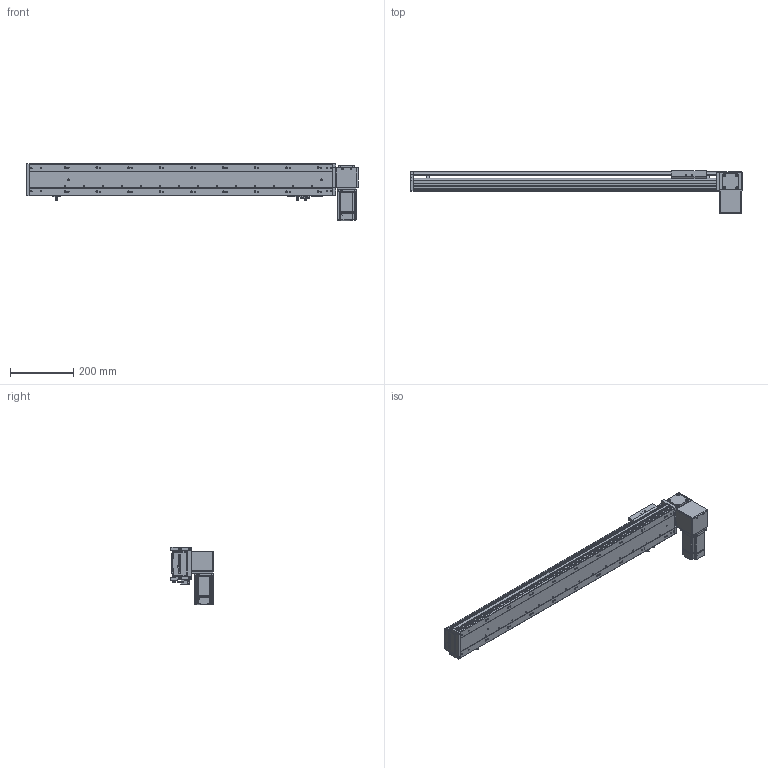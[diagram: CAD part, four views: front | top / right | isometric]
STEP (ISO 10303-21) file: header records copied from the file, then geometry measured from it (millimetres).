
FILE_DESCRIPTION (( 'STEP AP203' ), '1' );
FILE_NAME ('RY100-T-300-DL.SLDASM_750.step', '2024-04-24T01:11:09', ( '盈信电脑' ), ( '东莞市道滘镇水果街19号' ), 'SwSTEP 2.0', 'SolidWorks 2016', '' );
FILE_SCHEMA (( 'CONFIG_CONTROL_DESIGN' ));
Length unit declared in the file: millimetre
Products named in the file (16): 1; RY100俋离覜茼え; RY100-T翋肮祭謫裔啣2; RY100-T翋肮祭謫粣; RY100-T-300-DL.SLDASM_750; RY80-T肮祭謫狟殏俋欶; RY100-T粣創揤踡裔; 覜茼ん672; RY100-T-300-RK倰第菁釱_750; RY100-T左右折电机安装板; RY100-T翋肮祭謫裔啣; 滅袉蝶18-10; RY100-T-300-RK倰第奻裔_750; RY100-T肮祭謫臏賑輸; RY100綴裔啣; RY100-T肮祭謫翋盓傅釱
Assembly tree (18 placements, depth 2):
  RY100-T-300-DL.SLDASM_750
    RY100-T-300-RK倰第菁釱_750
    RY100-T-300-RK倰第奻裔_750
    RY100-T肮祭謫臏賑輸
    RY100綴裔啣
    覜茼ん672  x3
    RY100俋离覜茼え
    RY100-T翋肮祭謫粣
    RY100-T肮祭謫翋盓傅釱
    滅袉蝶18-10  x2
    RY100-T翋肮祭謫裔啣
    1
    RY100-T左右折电机安装板
    RY100-T粣創揤踡裔
    RY100-T翋肮祭謫裔啣2
    RY80-T肮祭謫狟殏俋欶
Bounding box: 1050 x 135.5 x 182.5 mm (x, y, z)
Volume: 2240130.3 mm3; surface area: 909559.1 mm2
Topology: 18 solids, 18 shells, 2261 faces, 6279 edges, 4077 vertices
Faces by surface type: plane 1219, cylinder 821, cone 143, bspline 78
Entity records: 73130 total; most frequent: CARTESIAN_POINT 17754, ORIENTED_EDGE 11390, DIRECTION 10847, EDGE_CURVE 5695, VERTEX_POINT 3745, LINE 3657, VECTOR 3657, AXIS2_PLACEMENT_3D 3595
